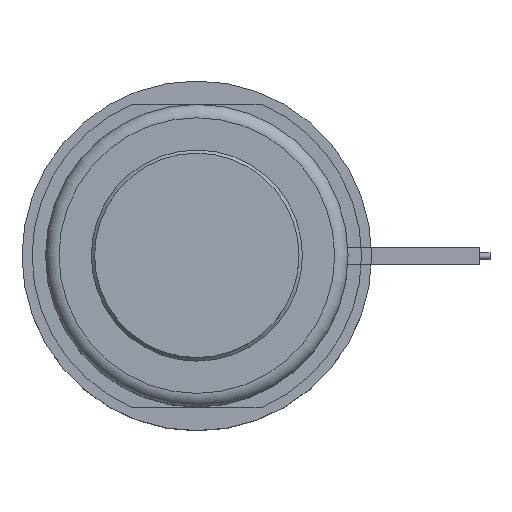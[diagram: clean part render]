
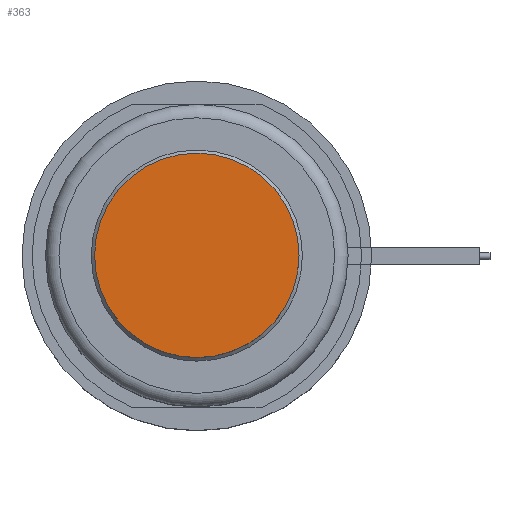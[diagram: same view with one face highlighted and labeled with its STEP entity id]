
A CAD part, top view. The second image highlights one B-rep face of the part: STEP entity #363.
In plain terms, the highlighted planar face has unit normal (0, 0, 1).
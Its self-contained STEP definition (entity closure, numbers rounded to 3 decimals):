
#363=ADVANCED_FACE('',(#490),#446,.F.);
#446=PLANE('',#1323);
#490=FACE_OUTER_BOUND('',#575,.T.);
#575=EDGE_LOOP('',(#715));
#715=ORIENTED_EDGE('',*,*,#1092,.F.);
#982=VERTEX_POINT('',#1889);
#1092=EDGE_CURVE('',#982,#982,#1231,.T.);
#1231=CIRCLE('',#1322,15.2);
#1322=AXIS2_PLACEMENT_3D('',#1888,#1520,#1521);
#1323=AXIS2_PLACEMENT_3D('',#1890,#1522,#1523);
#1520=DIRECTION('',(0.,0.,-1.));
#1521=DIRECTION('',(-1.,0.,0.));
#1522=DIRECTION('',(0.,0.,-1.));
#1523=DIRECTION('',(-1.,0.,0.));
#1888=CARTESIAN_POINT('',(0.,0.,18.));
#1889=CARTESIAN_POINT('',(-15.2,0.,18.));
#1890=CARTESIAN_POINT('',(0.,0.,18.));
